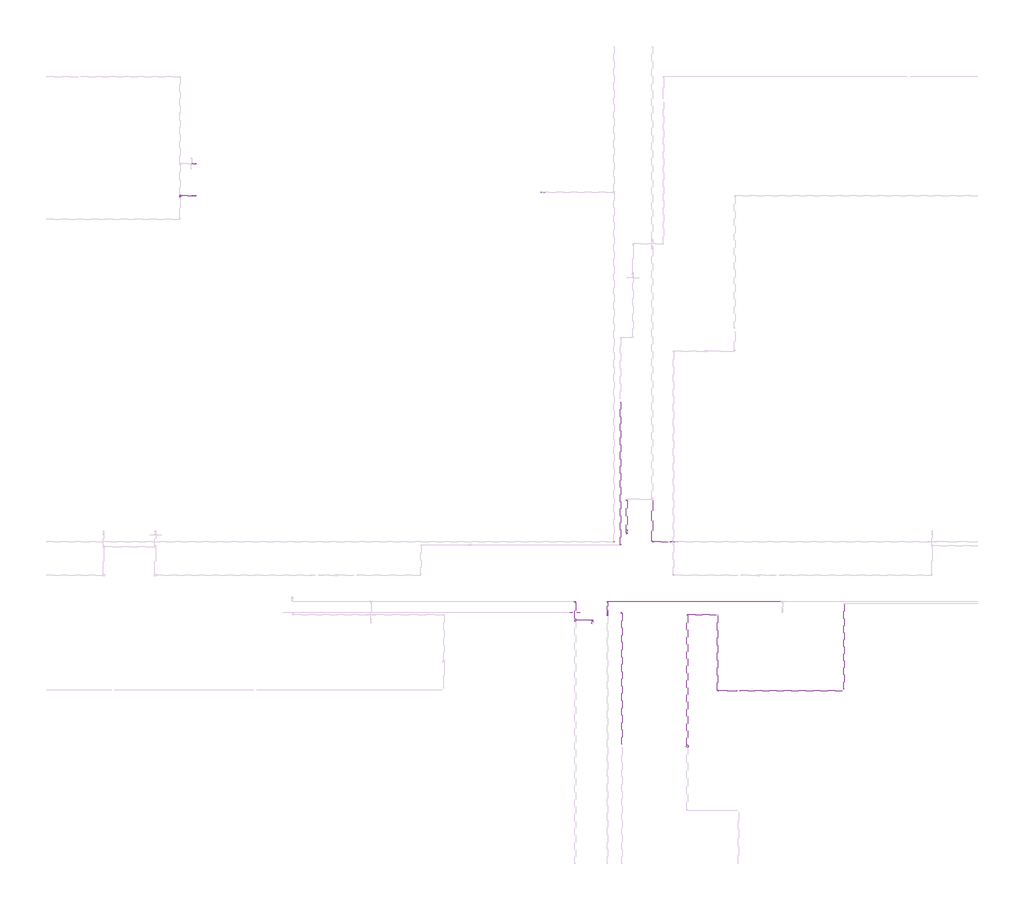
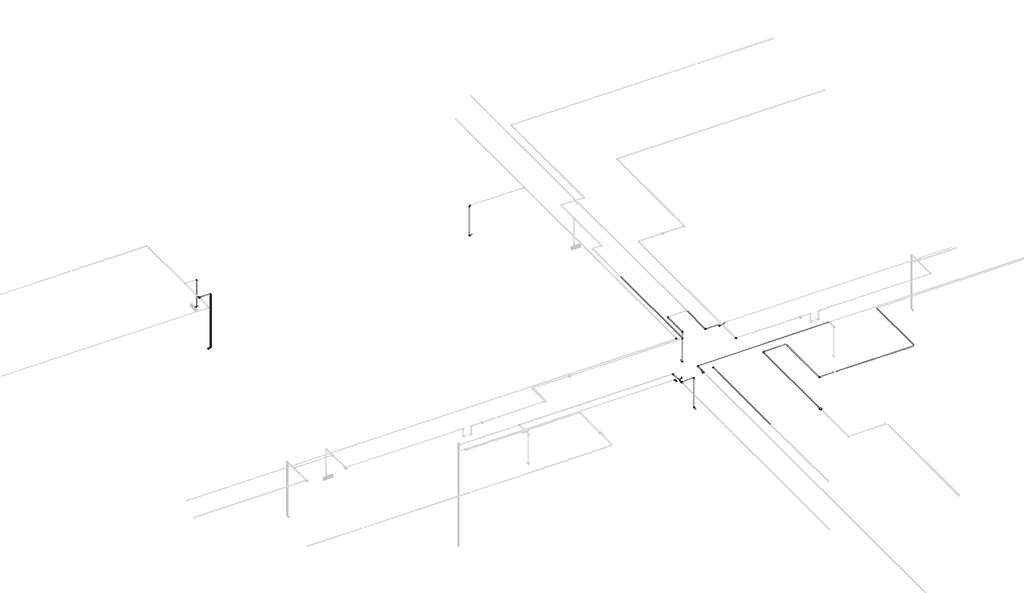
# One storey, part 7 of 13: 34 cable carrier segments, 31 cable carrier fittings, 1 alarm.
"""IFC4 building model written with IfcOpenShell, lengths in millimetres."""

from ifc_helpers import new_model, si_unit, point, frame, frame_2d, origin, place, context, project, spatial, circle_curve, trimmed, segment, composite_curve, outline, extrude, transform, mapped, element, save
from components import alarm_a2247946, cable_carrier_fitting_69f1a801, cable_carrier_fitting_8122f9af, cable_carrier_fitting_8fd13dfc, cable_carrier_fitting_878e7cbb, cable_carrier_fitting_4b72e086, cable_carrier_fitting_73a83bcc, cable_carrier_fitting_5f05cd2f

model = new_model("IFC4")

# Units and contexts
model_context = context("Model", 3, world=origin())
ifc_project = project(units=[si_unit("LENGTHUNIT", "METRE", prefix="MILLI")], contexts=[model_context])

# Site, building, storey
site = spatial("IfcSite", under=ifc_project)
building = spatial("IfcBuilding", under=site)
storey = spatial("IfcBuildingStorey", under=building, Name="2 этаж", Elevation=3500.0)

# Alarm
placement = place(None, origin())
alarm_shape = alarm_a2247946(model_context)
element("IfcAlarm", 1, ObjectType="RBZ_ИзоляторШлейфа_Рубеж_ИЗ-1_прот.R3(плоскость) : ИЗ-1 прот.R3", at=placement, inside=storey, context=model_context, shape_type="MappedRepresentation", body=[
    mapped(alarm_shape, transform((-12472.3240021, 699.6370105, 6997.7), x_axis=(1.0, 0.0, 0.0), y_axis=(0.0, 1.0, 0.0), z_axis=(0.0, 0.0, 1.0))),
])

# Cable carrier fittings
cable_carrier_fitting_shape = cable_carrier_fitting_69f1a801(model_context)
element("IfcCableCarrierFitting", 2, ObjectType="ADSK_Поворот_Минимальный размер : Неспецифицируемый", at=placement, inside=storey, context=model_context, shape_type="MappedRepresentation", body=[
    mapped(cable_carrier_fitting_shape, transform((-11678.8240021, 2144.6370105, 6986.95), x_axis=(0.0, -1.0, 0.0), y_axis=(1.0, 0.0, 0.0), z_axis=(0.0, 0.0, 1.0))),
])
element("IfcCableCarrierFitting", 3, ObjectType="ADSK_Поворот_Минимальный размер : Неспецифицируемый", at=placement, inside=storey, context=model_context, shape_type="MappedRepresentation", body=[
    mapped(cable_carrier_fitting_shape, transform((-12472.3240021, 4135.4271104, 6986.95), x_axis=(-1.0, 0.0, 0.0), y_axis=(0.0, -1.0, 0.0), z_axis=(0.0, 0.0, 1.0))),
])
element("IfcCableCarrierFitting", 4, ObjectType="ADSK_Поворот_Минимальный размер : Неспецифицируемый", at=placement, inside=storey, context=model_context, shape_type="MappedRepresentation", body=[
    mapped(cable_carrier_fitting_shape, transform((-14212.3240021, 5957.1532203, 6984.65), x_axis=(1.0, 0.0, 0.0), y_axis=(0.0, 1.0, 0.0), z_axis=(0.0, 0.0, 1.0))),
])
element("IfcCableCarrierFitting", 5, ObjectType="ADSK_Поворот_Минимальный размер : Неспецифицируемый", at=placement, inside=storey, context=model_context, shape_type="MappedRepresentation", body=[
    mapped(cable_carrier_fitting_shape, transform((-12827.3240021, 5164.6370105, 6986.95), x_axis=(0.0, -1.0, 0.0), y_axis=(1.0, 0.0, 0.0), z_axis=(0.0, 0.0, 1.0))),
])
element("IfcCableCarrierFitting", 6, ObjectType="ADSK_Поворот_Минимальный размер : Неспецифицируемый", at=placement, inside=storey, context=model_context, shape_type="MappedRepresentation", body=[
    mapped(cable_carrier_fitting_shape, transform((-14382.3240021, 6037.6221207, 6990.0), x_axis=(1.0, 0.0, 0.0), y_axis=(0.0, 1.0, 0.0), z_axis=(0.0, 0.0, 1.0))),
])
element("IfcCableCarrierFitting", 7, ObjectType="ADSK_Поворот_Минимальный размер : Неспецифицируемый", at=placement, inside=storey, context=model_context, shape_type="MappedRepresentation", body=[
    mapped(cable_carrier_fitting_shape, transform((-16289.5238077, 15172.1370105, 5897.4861504), x_axis=(-1.0, 0.0, 0.0), y_axis=(0.0, 0.0, 1.0), z_axis=(0.0, 1.0, 0.0))),
])
element("IfcCableCarrierFitting", 8, ObjectType="ADSK_Поворот_Минимальный размер : Неспецифицируемый", at=placement, inside=storey, context=model_context, shape_type="MappedRepresentation", body=[
    mapped(cable_carrier_fitting_shape, transform((-16289.5238077, 15172.1370105, 6990.0), x_axis=(0.0, 0.0, 1.0), y_axis=(1.0, 0.0, 0.0), z_axis=(0.0, 1.0, 0.0))),
])
element("IfcCableCarrierFitting", 9, ObjectType="ADSK_Поворот_Минимальный размер : Неспецифицируемый", at=placement, inside=storey, context=model_context, shape_type="MappedRepresentation", body=[
    mapped(cable_carrier_fitting_shape, transform((-14052.3240021, 6252.4372049, 5897.4861504), x_axis=(0.0, -1.0, 0.0), y_axis=(0.0, 0.0, 1.0), z_axis=(-1.0, 0.0, 0.0))),
])
element("IfcCableCarrierFitting", 10, ObjectType="ADSK_Поворот_Минимальный размер : Неспецифицируемый", at=placement, inside=storey, context=model_context, shape_type="MappedRepresentation", body=[
    mapped(cable_carrier_fitting_shape, transform((-14052.3240021, 6252.4372049, 6990.0), x_axis=(0.0, 0.0, 1.0), y_axis=(0.0, 1.0, 0.0), z_axis=(-1.0, 0.0, 0.0))),
])
element("IfcCableCarrierFitting", 11, ObjectType="ADSK_Поворот_Минимальный размер : Неспецифицируемый", at=placement, inside=storey, context=model_context, shape_type="MappedRepresentation", body=[
    mapped(cable_carrier_fitting_shape, transform((-14052.3240021, 7149.6370105, 6990.0), x_axis=(-1.0, 0.0, 0.0), y_axis=(0.0, -1.0, 0.0), z_axis=(0.0, 0.0, 1.0))),
])
element("IfcCableCarrierFitting", 12, ObjectType="ADSK_Поворот_Минимальный размер : Неспецифицируемый", at=placement, inside=storey, context=model_context, shape_type="MappedRepresentation", body=[
    mapped(cable_carrier_fitting_shape, transform((-14952.3240021, 3996.8368161, 5897.4861504), x_axis=(0.0, 1.0, 0.0), y_axis=(0.0, 0.0, 1.0), z_axis=(1.0, 0.0, 0.0))),
])
element("IfcCableCarrierFitting", 13, ObjectType="ADSK_Поворот_Минимальный размер : Неспецифицируемый", at=placement, inside=storey, context=model_context, shape_type="MappedRepresentation", body=[
    mapped(cable_carrier_fitting_shape, transform((-25315.1241965, 15917.1370105, 6000.0), x_axis=(1.0, 0.0, 0.0), y_axis=(0.0, 0.0, 1.0), z_axis=(0.0, -1.0, 0.0))),
])
element("IfcCableCarrierFitting", 14, ObjectType="ADSK_Поворот_Минимальный размер : Неспецифицируемый", at=placement, inside=storey, context=model_context, shape_type="MappedRepresentation", body=[
    mapped(cable_carrier_fitting_shape, transform((-25315.1241965, 15917.1370105, 6986.95), x_axis=(0.0, 0.0, 1.0), y_axis=(-1.0, 0.0, 0.0), z_axis=(0.0, -1.0, 0.0))),
])
element("IfcCableCarrierFitting", 15, ObjectType="ADSK_Поворот_Минимальный размер : Неспецифицируемый", at=placement, inside=storey, context=model_context, shape_type="MappedRepresentation", body=[
    mapped(cable_carrier_fitting_shape, transform((-25315.1241965, 15077.1370105, 5000.0), x_axis=(1.0, 0.0, 0.0), y_axis=(0.0, 0.0, 1.0), z_axis=(0.0, -1.0, 0.0))),
])
element("IfcCableCarrierFitting", 16, ObjectType="ADSK_Поворот_Минимальный размер : Неспецифицируемый", at=placement, inside=storey, context=model_context, shape_type="MappedRepresentation", body=[
    mapped(cable_carrier_fitting_shape, transform((-25315.1241965, 15077.1370105, 6986.95), x_axis=(0.0, 0.0, 1.0), y_axis=(-1.0, 0.0, 0.0), z_axis=(0.0, -1.0, 0.0))),
])
element("IfcCableCarrierFitting", 17, ObjectType="ADSK_Поворот_Минимальный размер : Неспецифицируемый", at=placement, inside=storey, context=model_context, shape_type="MappedRepresentation", body=[
    mapped(cable_carrier_fitting_shape, transform((-14174.8240021, 4191.0020778, 6986.95), x_axis=(0.0, 1.0, 0.0), y_axis=(-0.999999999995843, 0.0, 2.883415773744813e-06), z_axis=(2.883415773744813e-06, 0.0, 0.999999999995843))),
])
element("IfcCableCarrierFitting", 18, ObjectType="ADSK_Поворот_Минимальный размер : Неспецифицируемый", at=placement, inside=storey, context=model_context, shape_type="MappedRepresentation", body=[
    mapped(cable_carrier_fitting_shape, transform((-15397.3240021, 4481.6519004, 6990.0), x_axis=(0.0, 1.0, 0.0), y_axis=(-1.0, 0.0, 0.0), z_axis=(0.0, 0.0, 1.0))),
])
element("IfcCableCarrierFitting", 19, ObjectType="ADSK_Поворот_Минимальный размер : Неспецифицируемый", at=placement, inside=storey, context=model_context, shape_type="MappedRepresentation", body=[
    mapped(cable_carrier_fitting_shape, transform((-14952.3240021, 3996.8368161, 6990.0), x_axis=(0.0, 0.0, 1.0), y_axis=(-1.0, 0.0, 0.0), z_axis=(0.0, -1.0, 0.0))),
])
element("IfcCableCarrierFitting", 20, ObjectType="ADSK_Поворот_Минимальный размер : Неспецифицируемый", at=placement, inside=storey, context=model_context, shape_type="MappedRepresentation", body=[
    mapped(cable_carrier_fitting_shape, transform((-14554.8240021, 4481.6519004, 6990.0), x_axis=(-1.0, 0.0, 0.0), y_axis=(0.0, -1.0, 0.0), z_axis=(0.0, 0.0, 1.0))),
])
element("IfcCableCarrierFitting", 21, ObjectType="ADSK_Поворот_Минимальный размер : Неспецифицируемый", at=placement, inside=storey, context=model_context, shape_type="MappedRepresentation", body=[
    mapped(cable_carrier_fitting_shape, transform((-13382.3240021, 6037.6221207, 6990.0), x_axis=(0.0, -1.0, 0.0), y_axis=(1.0, 0.0, 0.0), z_axis=(0.0, 0.0, 1.0))),
])
cable_carrier_fitting_2_shape = cable_carrier_fitting_8122f9af(model_context)
element("IfcCableCarrierFitting", 22, ObjectType="ADSK_Поворот_Минимальный размер : Неспецифицируемый", at=placement, inside=storey, context=model_context, shape_type="MappedRepresentation", body=[
    mapped(cable_carrier_fitting_2_shape, transform((-14554.8240021, 4189.0390059, 6940.0), x_axis=(0.0, -0.7071067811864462, -0.7071067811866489), y_axis=(0.0, -0.7071067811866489, 0.7071067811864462), z_axis=(-1.0, 0.0, 0.0))),
])
element("IfcCableCarrierFitting", 23, ObjectType="ADSK_Поворот_Минимальный размер : Неспецифицируемый", at=placement, inside=storey, context=model_context, shape_type="MappedRepresentation", body=[
    mapped(cable_carrier_fitting_2_shape, transform((-14554.8240021, 4162.2318705, 6940.0), x_axis=(0.0, -1.0, 0.0), y_axis=(0.0, 0.0, 1.0), z_axis=(-1.0, 0.0, 0.0))),
])
element("IfcCableCarrierFitting", 24, ObjectType="ADSK_Поворот_Минимальный размер : Неспецифицируемый", at=placement, inside=storey, context=model_context, shape_type="MappedRepresentation", body=[
    mapped(cable_carrier_fitting_2_shape, transform((-14554.8240021, 4112.2318705, 6990.0), x_axis=(0.0, -0.7071067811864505, 0.7071067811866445), y_axis=(0.0, -0.7071067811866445, -0.7071067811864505), z_axis=(1.0, 0.0, 0.0))),
])
element("IfcCableCarrierFitting", 25, ObjectType="ADSK_Поворот_Минимальный размер : Неспецифицируемый", at=placement, inside=storey, context=model_context, shape_type="MappedRepresentation", body=[
    mapped(cable_carrier_fitting_2_shape, transform((-12893.8962734, 6037.6221207, 6940.0), x_axis=(0.7071067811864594, 0.0, -0.7071067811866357), y_axis=(0.7071067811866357, 0.0, 0.7071067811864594), z_axis=(0.0, -1.0, 0.0))),
])
element("IfcCableCarrierFitting", 26, ObjectType="ADSK_Поворот_Минимальный размер : Неспецифицируемый", at=placement, inside=storey, context=model_context, shape_type="MappedRepresentation", body=[
    mapped(cable_carrier_fitting_2_shape, transform((-14554.8240021, 4239.0390059, 6990.0), x_axis=(0.0, 0.707106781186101, 0.707106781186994), y_axis=(0.0, 0.707106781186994, -0.707106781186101), z_axis=(-1.0, 0.0, 0.0))),
])
cable_carrier_fitting_3_shape = cable_carrier_fitting_8fd13dfc(model_context)
element("IfcCableCarrierFitting", 27, ObjectType="ADSK_Тройник : ПВХ", at=placement, inside=storey, context=model_context, shape_type="MappedRepresentation", body=[
    mapped(cable_carrier_fitting_3_shape, transform((-25722.3240021, 15077.1370105, 6986.95), x_axis=(0.0, 1.0, 0.0), y_axis=(-1.0, 0.0, 0.0), z_axis=(0.0, 0.0, 1.0))),
])
element("IfcCableCarrierFitting", 28, ObjectType="ADSK_Тройник : ПВХ", at=placement, inside=storey, context=model_context, shape_type="MappedRepresentation", body=[
    mapped(cable_carrier_fitting_3_shape, transform((-15397.3240021, 3996.8368161, 6990.0), x_axis=(0.0, 1.0, 0.0), y_axis=(-1.0, 0.0, 0.0), z_axis=(0.0, 0.0, 1.0))),
])
cable_carrier_fitting_4_shape = cable_carrier_fitting_878e7cbb(model_context)
element("IfcCableCarrierFitting", 29, ObjectType="ADSK_Поворот_Минимальный размер : Неспецифицируемый", at=placement, inside=storey, context=model_context, shape_type="MappedRepresentation", body=[
    mapped(cable_carrier_fitting_4_shape, transform((-15280.7517309, 4191.0020779, 6990.0001713), x_axis=(-0.9999999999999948, 0.0, 1.0205814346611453e-07), y_axis=(-1.0205814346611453e-07, 0.0, -0.9999999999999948), z_axis=(0.0, -1.0, 0.0))),
])
cable_carrier_fitting_5_shape = cable_carrier_fitting_4b72e086(model_context)
element("IfcCableCarrierFitting", 30, ObjectType="ADSK_Поворот_Минимальный размер : Неспецифицируемый", at=placement, inside=storey, context=model_context, shape_type="MappedRepresentation", body=[
    mapped(cable_carrier_fitting_5_shape, transform((-15330.7516703, 4191.0020779, 6940.0002318), x_axis=(-0.707106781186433, 0.0, -0.7071067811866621), y_axis=(-0.7071067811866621, 0.0, 0.707106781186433), z_axis=(0.0, 1.0, 0.0))),
])
cable_carrier_fitting_6_shape = cable_carrier_fitting_73a83bcc(model_context)
element("IfcCableCarrierFitting", 31, ObjectType="ADSK_Поворот_Минимальный размер : Неспецифицируемый", at=placement, inside=storey, context=model_context, shape_type="MappedRepresentation", body=[
    mapped(cable_carrier_fitting_6_shape, transform((-15463.8962734, 4191.0020779, 6939.9998287), x_axis=(-0.9999999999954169, 0.0, -3.0275862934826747e-06), y_axis=(-3.0275862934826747e-06, 0.0, 0.9999999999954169), z_axis=(0.0, 1.0, 0.0))),
])
cable_carrier_fitting_7_shape = cable_carrier_fitting_5f05cd2f(model_context)
element("IfcCableCarrierFitting", 32, ObjectType="ADSK_Поворот_Минимальный размер : Неспецифицируемый", at=placement, inside=storey, context=model_context, shape_type="MappedRepresentation", body=[
    mapped(cable_carrier_fitting_7_shape, transform((-15513.8962734, 4191.0020779, 6989.9998889), x_axis=(-0.7071063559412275, 0.0, 0.7071072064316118), y_axis=(-0.7071072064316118, 0.0, -0.7071063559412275), z_axis=(0.0, -1.0, 0.0))),
])

# Cable carrier segments
element("IfcCableCarrierSegment", 33, ObjectType="Гофрированная труба", at=placement, inside=storey, context=model_context, shape_type="SweptSolid", body=[
    extrude(outline(composite_curve([segment(trimmed(circle_curve(frame_2d((6986.95, -14174.8240021)), 10.0), [point((6986.95, -14164.8240021))], [point((6996.95, -14174.8240021))], False, "CARTESIAN"), True, "CONTINUOUS"), segment(trimmed(circle_curve(frame_2d((6986.95, -14174.8240021)), 10.0), [point((6996.95, -14174.8240021))], [point((6986.95, -14184.8240021))], False, "CARTESIAN"), True, "CONTINUOUS"), segment(trimmed(circle_curve(frame_2d((6986.95, -14174.8240021)), 10.0), [point((6986.95, -14184.8240021))], [point((6976.95, -14174.8240021))], False, "CARTESIAN"), True, "CONTINUOUS"), segment(trimmed(circle_curve(frame_2d((6986.95, -14174.8240021)), 10.0), [point((6976.95, -14174.8240021))], [point((6986.95, -14164.8240021))], False, "CARTESIAN"), True, "CONTINUOUS")], self_intersect=False)), frame((0.0, 746.1370105, 0.0), z_axis=(0.0, 1.0, 0.0), x_axis=(0.0, 0.0, 1.0)), (0.0, 0.0, 1.0), 3423.8650673),
])
element("IfcCableCarrierSegment", 34, ObjectType="Гофрированная труба", at=placement, inside=storey, context=model_context, shape_type="SweptSolid", body=[
    extrude(outline(composite_curve([segment(trimmed(circle_curve(frame_2d((6986.95, -12472.3240021)), 10.0), [point((6986.95, -12482.3240021))], [point((6976.95, -12472.3240021))], False, "CARTESIAN"), True, "CONTINUOUS"), segment(trimmed(circle_curve(frame_2d((6986.95, -12472.3240021)), 10.0), [point((6976.95, -12472.3240021))], [point((6986.95, -12462.3240021))], False, "CARTESIAN"), True, "CONTINUOUS"), segment(trimmed(circle_curve(frame_2d((6986.95, -12472.3240021)), 10.0), [point((6986.95, -12462.3240021))], [point((6996.95, -12472.3240021))], False, "CARTESIAN"), True, "CONTINUOUS"), segment(trimmed(circle_curve(frame_2d((6986.95, -12472.3240021)), 10.0), [point((6996.95, -12472.3240021))], [point((6986.95, -12482.3240021))], False, "CARTESIAN"), True, "CONTINUOUS")], self_intersect=False)), frame((0.0, 725.6370105, 0.0), z_axis=(0.0, 1.0, 0.0), x_axis=(0.0, 0.0, 1.0)), (0.0, 0.0, 1.0), 3388.7900999),
])
element("IfcCableCarrierSegment", 35, ObjectType="Гофрированная труба", at=placement, inside=storey, context=model_context, shape_type="SweptSolid", body=[
    extrude(outline(composite_curve([segment(trimmed(circle_curve(frame_2d((2144.6370105, 6986.95)), 10.0), [point((2154.6370105, 6986.95))], [point((2144.6370105, 6976.95))], False, "CARTESIAN"), True, "CONTINUOUS"), segment(trimmed(circle_curve(frame_2d((2144.6370105, 6986.95)), 10.0), [point((2144.6370105, 6976.95))], [point((2134.6370105, 6986.95))], False, "CARTESIAN"), True, "CONTINUOUS"), segment(trimmed(circle_curve(frame_2d((2144.6370105, 6986.95)), 10.0), [point((2134.6370105, 6986.95))], [point((2144.6370105, 6996.95))], False, "CARTESIAN"), True, "CONTINUOUS"), segment(trimmed(circle_curve(frame_2d((2144.6370105, 6986.95)), 10.0), [point((2144.6370105, 6996.95))], [point((2154.6370105, 6986.95))], False, "CARTESIAN"), True, "CONTINUOUS")], self_intersect=False)), frame((-11657.8240021, 0.0, 0.0), z_axis=(1.0, 0.0, 0.0), x_axis=(0.0, 1.0, 0.0)), (0.0, 0.0, 1.0), 479.0),
])
element("IfcCableCarrierSegment", 36, ObjectType="Гофрированная труба", at=placement, inside=storey, context=model_context, shape_type="SweptSolid", body=[
    extrude(outline(composite_curve([segment(trimmed(circle_curve(frame_2d((6986.95, -11678.8240021)), 10.0), [point((6986.95, -11668.8240021))], [point((6996.95, -11678.8240021))], False, "CARTESIAN"), True, "CONTINUOUS"), segment(trimmed(circle_curve(frame_2d((6986.95, -11678.8240021)), 10.0), [point((6996.95, -11678.8240021))], [point((6986.95, -11688.8240021))], False, "CARTESIAN"), True, "CONTINUOUS"), segment(trimmed(circle_curve(frame_2d((6986.95, -11678.8240021)), 10.0), [point((6986.95, -11688.8240021))], [point((6976.95, -11678.8240021))], False, "CARTESIAN"), True, "CONTINUOUS"), segment(trimmed(circle_curve(frame_2d((6986.95, -11678.8240021)), 10.0), [point((6976.95, -11678.8240021))], [point((6986.95, -11668.8240021))], False, "CARTESIAN"), True, "CONTINUOUS")], self_intersect=False)), frame((0.0, 2165.6370105, 0.0), z_axis=(0.0, 1.0, 0.0), x_axis=(0.0, 0.0, 1.0)), (0.0, 0.0, 1.0), 1948.7900999),
])
element("IfcCableCarrierSegment", 37, ObjectType="Гофрированная труба", at=placement, inside=storey, context=model_context, shape_type="SweptSolid", body=[
    extrude(outline(composite_curve([segment(trimmed(circle_curve(frame_2d((4135.4271104, 6986.95)), 10.0), [point((4125.4271104, 6986.95))], [point((4135.4271104, 6996.95))], False, "CARTESIAN"), True, "CONTINUOUS"), segment(trimmed(circle_curve(frame_2d((4135.4271104, 6986.95)), 10.0), [point((4135.4271104, 6996.95))], [point((4145.4271104, 6986.95))], False, "CARTESIAN"), True, "CONTINUOUS"), segment(trimmed(circle_curve(frame_2d((4135.4271104, 6986.95)), 10.0), [point((4145.4271104, 6986.95))], [point((4135.4271104, 6976.95))], False, "CARTESIAN"), True, "CONTINUOUS"), segment(trimmed(circle_curve(frame_2d((4135.4271104, 6986.95)), 10.0), [point((4135.4271104, 6976.95))], [point((4125.4271104, 6986.95))], False, "CARTESIAN"), True, "CONTINUOUS")], self_intersect=False)), frame((-12451.3240021, 0.0, 0.0), z_axis=(1.0, 0.0, 0.0), x_axis=(0.0, 1.0, 0.0)), (0.0, 0.0, 1.0), 751.5),
])
element("IfcCableCarrierSegment", 38, ObjectType="Гофрированная труба", at=placement, inside=storey, context=model_context, shape_type="SweptSolid", body=[
    extrude(outline(composite_curve([segment(trimmed(circle_curve(frame_2d((6984.65, -14212.3240021)), 10.0), [point((6984.65, -14202.3240021))], [point((6994.65, -14212.3240021))], False, "CARTESIAN"), True, "CONTINUOUS"), segment(trimmed(circle_curve(frame_2d((6984.65, -14212.3240021)), 10.0), [point((6994.65, -14212.3240021))], [point((6984.65, -14222.3240021))], False, "CARTESIAN"), True, "CONTINUOUS"), segment(trimmed(circle_curve(frame_2d((6984.65, -14212.3240021)), 10.0), [point((6984.65, -14222.3240021))], [point((6974.65, -14212.3240021))], False, "CARTESIAN"), True, "CONTINUOUS"), segment(trimmed(circle_curve(frame_2d((6984.65, -14212.3240021)), 10.0), [point((6974.65, -14212.3240021))], [point((6984.65, -14202.3240021))], False, "CARTESIAN"), True, "CONTINUOUS")], self_intersect=False)), frame((0.0, 5978.1532203, 0.0), z_axis=(0.0, 1.0, 0.0), x_axis=(0.0, 0.0, 1.0)), (0.0, 0.0, 1.0), 3704.9837902),
])
element("IfcCableCarrierSegment", 39, ObjectType="Гофрированная труба", at=placement, inside=storey, context=model_context, shape_type="SweptSolid", body=[
    extrude(outline(composite_curve([segment(trimmed(circle_curve(frame_2d((2144.6370105, 6986.95)), 10.0), [point((2134.6370105, 6986.95))], [point((2144.6370105, 6996.95))], False, "CARTESIAN"), True, "CONTINUOUS"), segment(trimmed(circle_curve(frame_2d((2144.6370105, 6986.95)), 10.0), [point((2144.6370105, 6996.95))], [point((2154.6370105, 6986.95))], False, "CARTESIAN"), True, "CONTINUOUS"), segment(trimmed(circle_curve(frame_2d((2144.6370105, 6986.95)), 10.0), [point((2154.6370105, 6986.95))], [point((2144.6370105, 6976.95))], False, "CARTESIAN"), True, "CONTINUOUS"), segment(trimmed(circle_curve(frame_2d((2144.6370105, 6986.95)), 10.0), [point((2144.6370105, 6976.95))], [point((2134.6370105, 6986.95))], False, "CARTESIAN"), True, "CONTINUOUS")], self_intersect=False)), frame((-11085.8240021, 0.0, 0.0), z_axis=(1.0, 0.0, 0.0), x_axis=(0.0, 1.0, 0.0)), (0.0, 0.0, 1.0), 2667.0),
])
element("IfcCableCarrierSegment", 40, ObjectType="Гофрированная труба", at=placement, inside=storey, context=model_context, shape_type="SweptSolid", body=[
    extrude(outline(composite_curve([segment(trimmed(circle_curve(frame_2d((6986.95, -8372.3240021)), 10.0), [point((6986.95, -8362.3240021))], [point((6996.95, -8372.3240021))], False, "CARTESIAN"), True, "CONTINUOUS"), segment(trimmed(circle_curve(frame_2d((6986.95, -8372.3240021)), 10.0), [point((6996.95, -8372.3240021))], [point((6986.95, -8382.3240021))], False, "CARTESIAN"), True, "CONTINUOUS"), segment(trimmed(circle_curve(frame_2d((6986.95, -8372.3240021)), 10.0), [point((6986.95, -8382.3240021))], [point((6976.95, -8372.3240021))], False, "CARTESIAN"), True, "CONTINUOUS"), segment(trimmed(circle_curve(frame_2d((6986.95, -8372.3240021)), 10.0), [point((6976.95, -8372.3240021))], [point((6986.95, -8362.3240021))], False, "CARTESIAN"), True, "CONTINUOUS")], self_intersect=False)), frame((0.0, 2191.1370105, 0.0), z_axis=(0.0, 1.0, 0.0), x_axis=(0.0, 0.0, 1.0)), (0.0, 0.0, 1.0), 2212.5),
])
element("IfcCableCarrierSegment", 41, ObjectType="Гофрированная труба", at=placement, inside=storey, context=model_context, shape_type="SweptSolid", body=[
    extrude(outline(composite_curve([segment(trimmed(circle_curve(frame_2d((6990.0, -13382.3240021)), 10.0), [point((6990.0, -13392.3240021))], [point((6980.0, -13382.3240021))], False, "CARTESIAN"), True, "CONTINUOUS"), segment(trimmed(circle_curve(frame_2d((6990.0, -13382.3240021)), 10.0), [point((6980.0, -13382.3240021))], [point((6990.0, -13372.3240021))], False, "CARTESIAN"), True, "CONTINUOUS"), segment(trimmed(circle_curve(frame_2d((6990.0, -13382.3240021)), 10.0), [point((6990.0, -13372.3240021))], [point((7000.0, -13382.3240021))], False, "CARTESIAN"), True, "CONTINUOUS"), segment(trimmed(circle_curve(frame_2d((6990.0, -13382.3240021)), 10.0), [point((7000.0, -13382.3240021))], [point((6990.0, -13392.3240021))], False, "CARTESIAN"), True, "CONTINUOUS")], self_intersect=False)), frame((0.0, 6058.6221207, 0.0), z_axis=(0.0, 1.0, 0.0), x_axis=(0.0, 0.0, 1.0)), (0.0, 0.0, 1.0), 1061.0148898),
])
element("IfcCableCarrierSegment", 42, ObjectType="Гофрированная труба", at=placement, inside=storey, context=model_context, shape_type="SweptSolid", body=[
    extrude(outline(composite_curve([segment(trimmed(circle_curve(frame_2d((4481.6519004, 6990.0)), 10.0), [point((4491.6519004, 6990.0))], [point((4481.6519004, 6980.0))], False, "CARTESIAN"), True, "CONTINUOUS"), segment(trimmed(circle_curve(frame_2d((4481.6519004, 6990.0)), 10.0), [point((4481.6519004, 6980.0))], [point((4471.6519004, 6990.0))], False, "CARTESIAN"), True, "CONTINUOUS"), segment(trimmed(circle_curve(frame_2d((4481.6519004, 6990.0)), 10.0), [point((4471.6519004, 6990.0))], [point((4481.6519004, 7000.0))], False, "CARTESIAN"), True, "CONTINUOUS"), segment(trimmed(circle_curve(frame_2d((4481.6519004, 6990.0)), 10.0), [point((4481.6519004, 7000.0))], [point((4491.6519004, 6990.0))], False, "CARTESIAN"), True, "CONTINUOUS")], self_intersect=False)), frame((-14533.8240021, 0.0, 0.0), z_axis=(1.0, 0.0, 0.0), x_axis=(0.0, 1.0, 0.0)), (0.0, 0.0, 1.0), 4521.5),
])
element("IfcCableCarrierSegment", 43, ObjectType="Гофрированная труба", at=placement, inside=storey, context=model_context, shape_type="SweptSolid", body=[
    extrude(outline(composite_curve([segment(trimmed(circle_curve(frame_2d((6940.0, -14554.8240021)), 10.0), [point((6940.0, -14564.8240021))], [point((6930.0, -14554.8240021))], False, "CARTESIAN"), True, "CONTINUOUS"), segment(trimmed(circle_curve(frame_2d((6940.0, -14554.8240021)), 10.0), [point((6930.0, -14554.8240021))], [point((6940.0, -14544.8240021))], False, "CARTESIAN"), True, "CONTINUOUS"), segment(trimmed(circle_curve(frame_2d((6940.0, -14554.8240021)), 10.0), [point((6940.0, -14544.8240021))], [point((6950.0, -14554.8240021))], False, "CARTESIAN"), True, "CONTINUOUS"), segment(trimmed(circle_curve(frame_2d((6940.0, -14554.8240021)), 10.0), [point((6950.0, -14554.8240021))], [point((6940.0, -14564.8240021))], False, "CARTESIAN"), True, "CONTINUOUS")], self_intersect=False)), frame((0.0, 4171.5161417, 0.0), z_axis=(0.0, 1.0, 0.0), x_axis=(0.0, 0.0, 1.0)), (0.0, 0.0, 1.0), 8.2385929),
])
element("IfcCableCarrierSegment", 44, ObjectType="Гофрированная труба", at=placement, inside=storey, context=model_context, shape_type="SweptSolid", body=[
    extrude(outline(composite_curve([segment(trimmed(circle_curve(frame_2d((15172.1370105, 5897.4861504)), 10.0), [point((15182.1370105, 5897.4861504))], [point((15172.1370105, 5887.4861504))], False, "CARTESIAN"), True, "CONTINUOUS"), segment(trimmed(circle_curve(frame_2d((15172.1370105, 5897.4861504)), 10.0), [point((15172.1370105, 5887.4861504))], [point((15162.1370105, 5897.4861504))], False, "CARTESIAN"), True, "CONTINUOUS"), segment(trimmed(circle_curve(frame_2d((15172.1370105, 5897.4861504)), 10.0), [point((15162.1370105, 5897.4861504))], [point((15172.1370105, 5907.4861504))], False, "CARTESIAN"), True, "CONTINUOUS"), segment(trimmed(circle_curve(frame_2d((15172.1370105, 5897.4861504)), 10.0), [point((15172.1370105, 5907.4861504))], [point((15182.1370105, 5897.4861504))], False, "CARTESIAN"), True, "CONTINUOUS")], self_intersect=False)), frame((-16268.5238077, 0.0, 0.0), z_axis=(1.0, 0.0, 0.0), x_axis=(0.0, 1.0, 0.0)), (0.0, 0.0, 1.0), 76.1998056),
])
element("IfcCableCarrierSegment", 45, ObjectType="Гофрированная труба", at=placement, inside=storey, context=model_context, shape_type="SweptSolid", body=[
    extrude(outline(composite_curve([segment(trimmed(circle_curve(frame_2d((-16289.5238077, 15172.1370105)), 10.0), [point((-16299.5238077, 15172.1370105))], [point((-16289.5238077, 15182.1370105))], False, "CARTESIAN"), True, "CONTINUOUS"), segment(trimmed(circle_curve(frame_2d((-16289.5238077, 15172.1370105)), 10.0), [point((-16289.5238077, 15182.1370105))], [point((-16279.5238077, 15172.1370105))], False, "CARTESIAN"), True, "CONTINUOUS"), segment(trimmed(circle_curve(frame_2d((-16289.5238077, 15172.1370105)), 10.0), [point((-16279.5238077, 15172.1370105))], [point((-16289.5238077, 15162.1370105))], False, "CARTESIAN"), True, "CONTINUOUS"), segment(trimmed(circle_curve(frame_2d((-16289.5238077, 15172.1370105)), 10.0), [point((-16289.5238077, 15162.1370105))], [point((-16299.5238077, 15172.1370105))], False, "CARTESIAN"), True, "CONTINUOUS")], self_intersect=False)), frame((0.0, 0.0, 5918.4861504), z_axis=(0.0, 0.0, 1.0), x_axis=(1.0, 0.0, 0.0)), (0.0, 0.0, 1.0), 1050.5138496),
])
element("IfcCableCarrierSegment", 46, ObjectType="Гофрированная труба", at=placement, inside=storey, context=model_context, shape_type="SweptSolid", body=[
    extrude(outline(composite_curve([segment(trimmed(circle_curve(frame_2d((6990.0, -14052.3240021)), 10.0), [point((6990.0, -14042.3240021))], [point((7000.0, -14052.3240021))], False, "CARTESIAN"), True, "CONTINUOUS"), segment(trimmed(circle_curve(frame_2d((6990.0, -14052.3240021)), 10.0), [point((7000.0, -14052.3240021))], [point((6990.0, -14062.3240021))], False, "CARTESIAN"), True, "CONTINUOUS"), segment(trimmed(circle_curve(frame_2d((6990.0, -14052.3240021)), 10.0), [point((6990.0, -14062.3240021))], [point((6980.0, -14052.3240021))], False, "CARTESIAN"), True, "CONTINUOUS"), segment(trimmed(circle_curve(frame_2d((6990.0, -14052.3240021)), 10.0), [point((6980.0, -14052.3240021))], [point((6990.0, -14042.3240021))], False, "CARTESIAN"), True, "CONTINUOUS")], self_intersect=False)), frame((0.0, 6273.4372049, 0.0), z_axis=(0.0, 1.0, 0.0), x_axis=(0.0, 0.0, 1.0)), (0.0, 0.0, 1.0), 855.1998056),
])
element("IfcCableCarrierSegment", 47, ObjectType="Гофрированная труба", at=placement, inside=storey, context=model_context, shape_type="SweptSolid", body=[
    extrude(outline(composite_curve([segment(trimmed(circle_curve(frame_2d((5897.4861504, -14052.3240021)), 10.0), [point((5897.4861504, -14062.3240021))], [point((5887.4861504, -14052.3240021))], False, "CARTESIAN"), True, "CONTINUOUS"), segment(trimmed(circle_curve(frame_2d((5897.4861504, -14052.3240021)), 10.0), [point((5887.4861504, -14052.3240021))], [point((5897.4861504, -14042.3240021))], False, "CARTESIAN"), True, "CONTINUOUS"), segment(trimmed(circle_curve(frame_2d((5897.4861504, -14052.3240021)), 10.0), [point((5897.4861504, -14042.3240021))], [point((5907.4861504, -14052.3240021))], False, "CARTESIAN"), True, "CONTINUOUS"), segment(trimmed(circle_curve(frame_2d((5897.4861504, -14052.3240021)), 10.0), [point((5907.4861504, -14052.3240021))], [point((5897.4861504, -14062.3240021))], False, "CARTESIAN"), True, "CONTINUOUS")], self_intersect=False)), frame((0.0, 6273.4372049, 0.0), z_axis=(0.0, 1.0, 0.0), x_axis=(0.0, 0.0, 1.0)), (0.0, 0.0, 1.0), 76.1998056),
])
element("IfcCableCarrierSegment", 48, ObjectType="Гофрированная труба", at=placement, inside=storey, context=model_context, shape_type="SweptSolid", body=[
    extrude(outline(composite_curve([segment(trimmed(circle_curve(frame_2d((-14052.3240021, 6252.4372049)), 10.0), [point((-14062.3240021, 6252.4372049))], [point((-14052.3240021, 6262.4372049))], False, "CARTESIAN"), True, "CONTINUOUS"), segment(trimmed(circle_curve(frame_2d((-14052.3240021, 6252.4372049)), 10.0), [point((-14052.3240021, 6262.4372049))], [point((-14042.3240021, 6252.4372049))], False, "CARTESIAN"), True, "CONTINUOUS"), segment(trimmed(circle_curve(frame_2d((-14052.3240021, 6252.4372049)), 10.0), [point((-14042.3240021, 6252.4372049))], [point((-14052.3240021, 6242.4372049))], False, "CARTESIAN"), True, "CONTINUOUS"), segment(trimmed(circle_curve(frame_2d((-14052.3240021, 6252.4372049)), 10.0), [point((-14052.3240021, 6242.4372049))], [point((-14062.3240021, 6252.4372049))], False, "CARTESIAN"), True, "CONTINUOUS")], self_intersect=False)), frame((0.0, 0.0, 5918.4861504), z_axis=(0.0, 0.0, 1.0), x_axis=(1.0, 0.0, 0.0)), (0.0, 0.0, 1.0), 1050.5138496),
])
element("IfcCableCarrierSegment", 49, ObjectType="Гофрированная труба", at=placement, inside=storey, context=model_context, shape_type="SweptSolid", body=[
    extrude(outline(composite_curve([segment(trimmed(circle_curve(frame_2d((5897.4861504, -14952.3240021)), 10.0), [point((5897.4861504, -14942.3240021))], [point((5907.4861504, -14952.3240021))], False, "CARTESIAN"), True, "CONTINUOUS"), segment(trimmed(circle_curve(frame_2d((5897.4861504, -14952.3240021)), 10.0), [point((5907.4861504, -14952.3240021))], [point((5897.4861504, -14962.3240021))], False, "CARTESIAN"), True, "CONTINUOUS"), segment(trimmed(circle_curve(frame_2d((5897.4861504, -14952.3240021)), 10.0), [point((5897.4861504, -14962.3240021))], [point((5887.4861504, -14952.3240021))], False, "CARTESIAN"), True, "CONTINUOUS"), segment(trimmed(circle_curve(frame_2d((5897.4861504, -14952.3240021)), 10.0), [point((5887.4861504, -14952.3240021))], [point((5897.4861504, -14942.3240021))], False, "CARTESIAN"), True, "CONTINUOUS")], self_intersect=False)), frame((0.0, 3899.6370105, 0.0), z_axis=(0.0, 1.0, 0.0), x_axis=(0.0, 0.0, 1.0)), (0.0, 0.0, 1.0), 76.1998056),
])
element("IfcCableCarrierSegment", 50, ObjectType="Гофрированная труба", at=placement, inside=storey, context=model_context, shape_type="SweptSolid", body=[
    extrude(outline(composite_curve([segment(trimmed(circle_curve(frame_2d((-14952.3240021, 3996.8368161)), 10.0), [point((-14962.3240021, 3996.8368161))], [point((-14952.3240021, 4006.8368161))], False, "CARTESIAN"), True, "CONTINUOUS"), segment(trimmed(circle_curve(frame_2d((-14952.3240021, 3996.8368161)), 10.0), [point((-14952.3240021, 4006.8368161))], [point((-14942.3240021, 3996.8368161))], False, "CARTESIAN"), True, "CONTINUOUS"), segment(trimmed(circle_curve(frame_2d((-14952.3240021, 3996.8368161)), 10.0), [point((-14942.3240021, 3996.8368161))], [point((-14952.3240021, 3986.8368161))], False, "CARTESIAN"), True, "CONTINUOUS"), segment(trimmed(circle_curve(frame_2d((-14952.3240021, 3996.8368161)), 10.0), [point((-14952.3240021, 3986.8368161))], [point((-14962.3240021, 3996.8368161))], False, "CARTESIAN"), True, "CONTINUOUS")], self_intersect=False)), frame((0.0, 0.0, 5918.4861504), z_axis=(0.0, 0.0, 1.0), x_axis=(1.0, 0.0, 0.0)), (0.0, 0.0, 1.0), 1050.5138496),
])
element("IfcCableCarrierSegment", 51, ObjectType="Гофрированная труба", at=placement, inside=storey, context=model_context, shape_type="SweptSolid", body=[
    extrude(outline(composite_curve([segment(trimmed(circle_curve(frame_2d((6990.0, -14554.8240021)), 10.0), [point((6990.0, -14564.8240021))], [point((6980.0, -14554.8240021))], False, "CARTESIAN"), True, "CONTINUOUS"), segment(trimmed(circle_curve(frame_2d((6990.0, -14554.8240021)), 10.0), [point((6980.0, -14554.8240021))], [point((6990.0, -14544.8240021))], False, "CARTESIAN"), True, "CONTINUOUS"), segment(trimmed(circle_curve(frame_2d((6990.0, -14554.8240021)), 10.0), [point((6990.0, -14544.8240021))], [point((7000.0, -14554.8240021))], False, "CARTESIAN"), True, "CONTINUOUS"), segment(trimmed(circle_curve(frame_2d((6990.0, -14554.8240021)), 10.0), [point((7000.0, -14554.8240021))], [point((6990.0, -14564.8240021))], False, "CARTESIAN"), True, "CONTINUOUS")], self_intersect=False)), frame((0.0, 4248.3232771, 0.0), z_axis=(0.0, 1.0, 0.0), x_axis=(0.0, 0.0, 1.0)), (0.0, 0.0, 1.0), 212.3286232),
])
element("IfcCableCarrierSegment", 52, ObjectType="Гофрированная труба", at=placement, inside=storey, context=model_context, shape_type="SweptSolid", body=[
    extrude(outline(composite_curve([segment(trimmed(circle_curve(frame_2d((0.0, -10.0000001)), 10.0), [point((-10.0, -10.0000001))], [point((0.0, 0.0))], False, "CARTESIAN"), True, "CONTINUOUS"), segment(trimmed(circle_curve(frame_2d((0.0, -10.0000001)), 10.0), [point((0.0, 0.0))], [point((10.0, -10.0000001))], False, "CARTESIAN"), True, "CONTINUOUS"), segment(trimmed(circle_curve(frame_2d((0.0, -10.0000001)), 10.0), [point((10.0, -10.0000001))], [point((0.0, -20.0))], False, "CARTESIAN"), True, "CONTINUOUS"), segment(trimmed(circle_curve(frame_2d((0.0, -10.0000001)), 10.0), [point((0.0, -20.0))], [point((-10.0, -10.0000001))], False, "CARTESIAN"), True, "CONTINUOUS")], self_intersect=False)), frame((-14554.8240021, 4202.6750448, 6939.4939033), z_axis=(0.0, 0.7071067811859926, 0.7071067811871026), x_axis=(1.0, 0.0, 0.0)), (0.0, 0.0, 1.0), 52.1421356),
])
element("IfcCableCarrierSegment", 53, ObjectType="Гофрированная труба", at=placement, inside=storey, context=model_context, shape_type="SweptSolid", body=[
    extrude(outline(composite_curve([segment(trimmed(circle_curve(frame_2d((0.0, 10.0000001)), 10.0), [point((-10.0, 10.0000001))], [point((0.0, 20.0))], False, "CARTESIAN"), True, "CONTINUOUS"), segment(trimmed(circle_curve(frame_2d((0.0, 10.0000001)), 10.0), [point((0.0, 20.0))], [point((10.0, 10.0000001))], False, "CARTESIAN"), True, "CONTINUOUS"), segment(trimmed(circle_curve(frame_2d((0.0, 10.0000001)), 10.0), [point((10.0, 10.0000001))], [point((0.0, 0.0))], False, "CARTESIAN"), True, "CONTINUOUS"), segment(trimmed(circle_curve(frame_2d((0.0, 10.0000001)), 10.0), [point((0.0, 0.0))], [point((-10.0, 10.0000001))], False, "CARTESIAN"), True, "CONTINUOUS")], self_intersect=False)), frame((-14554.8240021, 4148.5958315, 6939.4939033), z_axis=(0.0, -0.7071067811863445, 0.7071067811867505), x_axis=(1.0, 0.0, 0.0)), (0.0, 0.0, 1.0), 52.1421356),
])
element("IfcCableCarrierSegment", 54, ObjectType="Гофрированная труба", at=placement, inside=storey, context=model_context, shape_type="SweptSolid", body=[
    extrude(outline(composite_curve([segment(trimmed(circle_curve(frame_2d((6037.6221207, 6940.0)), 10.0), [point((6027.6221207, 6940.0))], [point((6037.6221207, 6950.0))], False, "CARTESIAN"), True, "CONTINUOUS"), segment(trimmed(circle_curve(frame_2d((6037.6221207, 6940.0)), 10.0), [point((6037.6221207, 6950.0))], [point((6047.6221207, 6940.0))], False, "CARTESIAN"), True, "CONTINUOUS"), segment(trimmed(circle_curve(frame_2d((6037.6221207, 6940.0)), 10.0), [point((6047.6221207, 6940.0))], [point((6037.6221207, 6930.0))], False, "CARTESIAN"), True, "CONTINUOUS"), segment(trimmed(circle_curve(frame_2d((6037.6221207, 6940.0)), 10.0), [point((6037.6221207, 6930.0))], [point((6027.6221207, 6940.0))], False, "CARTESIAN"), True, "CONTINUOUS")], self_intersect=False)), frame((-12884.6120021, 0.0, 0.0), z_axis=(1.0, 0.0, 0.0), x_axis=(0.0, 1.0, 0.0)), (0.0, 0.0, 1.0), 114.576),
])
element("IfcCableCarrierSegment", 55, ObjectType="Гофрированная труба", at=placement, inside=storey, context=model_context, shape_type="SweptSolid", body=[
    extrude(outline(composite_curve([segment(trimmed(circle_curve(frame_2d((6037.6221207, 6990.0)), 10.0), [point((6047.6221207, 6990.0))], [point((6037.6221207, 6980.0))], False, "CARTESIAN"), True, "CONTINUOUS"), segment(trimmed(circle_curve(frame_2d((6037.6221207, 6990.0)), 10.0), [point((6037.6221207, 6980.0))], [point((6027.6221207, 6990.0))], False, "CARTESIAN"), True, "CONTINUOUS"), segment(trimmed(circle_curve(frame_2d((6037.6221207, 6990.0)), 10.0), [point((6027.6221207, 6990.0))], [point((6037.6221207, 7000.0))], False, "CARTESIAN"), True, "CONTINUOUS"), segment(trimmed(circle_curve(frame_2d((6037.6221207, 6990.0)), 10.0), [point((6037.6221207, 7000.0))], [point((6047.6221207, 6990.0))], False, "CARTESIAN"), True, "CONTINUOUS")], self_intersect=False)), frame((-13361.3240021, 0.0, 0.0), z_axis=(1.0, 0.0, 0.0), x_axis=(0.0, 1.0, 0.0)), (0.0, 0.0, 1.0), 408.1434575),
])
element("IfcCableCarrierSegment", 56, ObjectType="Гофрированная труба", at=placement, inside=storey, context=model_context, shape_type="SweptSolid", body=[
    extrude(outline(composite_curve([segment(trimmed(circle_curve(frame_2d((0.0, -10.0)), 10.0), [point((0.0, -20.0))], [point((-10.0000001, -10.0))], False, "CARTESIAN"), True, "CONTINUOUS"), segment(trimmed(circle_curve(frame_2d((0.0, -10.0)), 10.0), [point((-10.0000001, -10.0))], [point((0.0, 0.0))], False, "CARTESIAN"), True, "CONTINUOUS"), segment(trimmed(circle_curve(frame_2d((0.0, -10.0)), 10.0), [point((0.0, 0.0))], [point((10.0, -10.0))], False, "CARTESIAN"), True, "CONTINUOUS"), segment(trimmed(circle_curve(frame_2d((0.0, -10.0)), 10.0), [point((10.0, -10.0))], [point((0.0, -20.0))], False, "CARTESIAN"), True, "CONTINUOUS")], self_intersect=False)), frame((-12900.4612445, 6047.6221207, 6946.5649712), z_axis=(-0.7071067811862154, 0.0, 0.7071067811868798), x_axis=(0.7071067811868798, 0.0, 0.7071067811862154)), (0.0, 0.0, 1.0), 52.1421356),
])
element("IfcCableCarrierSegment", 57, ObjectType="Гофрированная труба", at=placement, inside=storey, context=model_context, shape_type="SweptSolid", body=[
    extrude(outline(composite_curve([segment(trimmed(circle_curve(frame_2d((0.0, 10.0)), 10.0), [point((0.0, 0.0))], [point((-10.0, 10.0))], False, "CARTESIAN"), True, "CONTINUOUS"), segment(trimmed(circle_curve(frame_2d((0.0, 10.0)), 10.0), [point((-10.0, 10.0))], [point((0.0, 20.0))], False, "CARTESIAN"), True, "CONTINUOUS"), segment(trimmed(circle_curve(frame_2d((0.0, 10.0)), 10.0), [point((0.0, 20.0))], [point((10.0000001, 10.0))], False, "CARTESIAN"), True, "CONTINUOUS"), segment(trimmed(circle_curve(frame_2d((0.0, 10.0)), 10.0), [point((10.0000001, 10.0))], [point((0.0, 0.0))], False, "CARTESIAN"), True, "CONTINUOUS")], self_intersect=False)), frame((-12754.1867597, 6027.6221207, 6946.5649712), z_axis=(0.707106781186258, 0.0, 0.7071067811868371), x_axis=(0.7071067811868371, 0.0, -0.707106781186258)), (0.0, 0.0, 1.0), 52.1421356),
])
element("IfcCableCarrierSegment", 58, ObjectType="Гофрированная труба", at=placement, inside=storey, context=model_context, shape_type="SweptSolid", body=[
    extrude(outline(composite_curve([segment(trimmed(circle_curve(frame_2d((15917.1370105, 6000.0)), 10.0), [point((15907.1370105, 6000.0))], [point((15917.1370105, 6010.0))], False, "CARTESIAN"), True, "CONTINUOUS"), segment(trimmed(circle_curve(frame_2d((15917.1370105, 6000.0)), 10.0), [point((15917.1370105, 6010.0))], [point((15927.1370105, 6000.0))], False, "CARTESIAN"), True, "CONTINUOUS"), segment(trimmed(circle_curve(frame_2d((15917.1370105, 6000.0)), 10.0), [point((15927.1370105, 6000.0))], [point((15917.1370105, 5990.0))], False, "CARTESIAN"), True, "CONTINUOUS"), segment(trimmed(circle_curve(frame_2d((15917.1370105, 6000.0)), 10.0), [point((15917.1370105, 5990.0))], [point((15907.1370105, 6000.0))], False, "CARTESIAN"), True, "CONTINUOUS")], self_intersect=False)), frame((-25412.3240021, 0.0, 0.0), z_axis=(1.0, 0.0, 0.0), x_axis=(0.0, 1.0, 0.0)), (0.0, 0.0, 1.0), 76.1998056),
])
element("IfcCableCarrierSegment", 59, ObjectType="Гофрированная труба", at=placement, inside=storey, context=model_context, shape_type="SweptSolid", body=[
    extrude(outline(composite_curve([segment(trimmed(circle_curve(frame_2d((-25315.1241965, 15917.1370105)), 10.0), [point((-25325.1241965, 15917.1370105))], [point((-25315.1241965, 15927.1370105))], False, "CARTESIAN"), True, "CONTINUOUS"), segment(trimmed(circle_curve(frame_2d((-25315.1241965, 15917.1370105)), 10.0), [point((-25315.1241965, 15927.1370105))], [point((-25305.1241965, 15917.1370105))], False, "CARTESIAN"), True, "CONTINUOUS"), segment(trimmed(circle_curve(frame_2d((-25315.1241965, 15917.1370105)), 10.0), [point((-25305.1241965, 15917.1370105))], [point((-25315.1241965, 15907.1370105))], False, "CARTESIAN"), True, "CONTINUOUS"), segment(trimmed(circle_curve(frame_2d((-25315.1241965, 15917.1370105)), 10.0), [point((-25315.1241965, 15907.1370105))], [point((-25325.1241965, 15917.1370105))], False, "CARTESIAN"), True, "CONTINUOUS")], self_intersect=False)), frame((0.0, 0.0, 6021.0), z_axis=(0.0, 0.0, 1.0), x_axis=(1.0, 0.0, 0.0)), (0.0, 0.0, 1.0), 944.95),
])
element("IfcCableCarrierSegment", 60, ObjectType="Гофрированная труба", at=placement, inside=storey, context=model_context, shape_type="SweptSolid", body=[
    extrude(outline(composite_curve([segment(trimmed(circle_curve(frame_2d((15077.1370105, 6986.95)), 10.0), [point((15067.1370105, 6986.95))], [point((15077.1370105, 6996.95))], False, "CARTESIAN"), True, "CONTINUOUS"), segment(trimmed(circle_curve(frame_2d((15077.1370105, 6986.95)), 10.0), [point((15077.1370105, 6996.95))], [point((15087.1370105, 6986.95))], False, "CARTESIAN"), True, "CONTINUOUS"), segment(trimmed(circle_curve(frame_2d((15077.1370105, 6986.95)), 10.0), [point((15087.1370105, 6986.95))], [point((15077.1370105, 6976.95))], False, "CARTESIAN"), True, "CONTINUOUS"), segment(trimmed(circle_curve(frame_2d((15077.1370105, 6986.95)), 10.0), [point((15077.1370105, 6976.95))], [point((15067.1370105, 6986.95))], False, "CARTESIAN"), True, "CONTINUOUS")], self_intersect=False)), frame((-25692.3240021, 0.0, 0.0), z_axis=(1.0, 0.0, 0.0), x_axis=(0.0, 1.0, 0.0)), (0.0, 0.0, 1.0), 356.1998056),
])
element("IfcCableCarrierSegment", 61, ObjectType="Гофрированная труба", at=placement, inside=storey, context=model_context, shape_type="SweptSolid", body=[
    extrude(outline(composite_curve([segment(trimmed(circle_curve(frame_2d((15077.1370105, 5000.0)), 10.0), [point((15067.1370105, 5000.0))], [point((15077.1370105, 5010.0))], False, "CARTESIAN"), True, "CONTINUOUS"), segment(trimmed(circle_curve(frame_2d((15077.1370105, 5000.0)), 10.0), [point((15077.1370105, 5010.0))], [point((15087.1370105, 5000.0))], False, "CARTESIAN"), True, "CONTINUOUS"), segment(trimmed(circle_curve(frame_2d((15077.1370105, 5000.0)), 10.0), [point((15087.1370105, 5000.0))], [point((15077.1370105, 4990.0))], False, "CARTESIAN"), True, "CONTINUOUS"), segment(trimmed(circle_curve(frame_2d((15077.1370105, 5000.0)), 10.0), [point((15077.1370105, 4990.0))], [point((15067.1370105, 5000.0))], False, "CARTESIAN"), True, "CONTINUOUS")], self_intersect=False)), frame((-25412.3240021, 0.0, 0.0), z_axis=(1.0, 0.0, 0.0), x_axis=(0.0, 1.0, 0.0)), (0.0, 0.0, 1.0), 76.1998056),
])
element("IfcCableCarrierSegment", 62, ObjectType="Гофрированная труба", at=placement, inside=storey, context=model_context, shape_type="SweptSolid", body=[
    extrude(outline(composite_curve([segment(trimmed(circle_curve(frame_2d((-25315.1241965, 15077.1370105)), 10.0), [point((-25325.1241965, 15077.1370105))], [point((-25315.1241965, 15087.1370105))], False, "CARTESIAN"), True, "CONTINUOUS"), segment(trimmed(circle_curve(frame_2d((-25315.1241965, 15077.1370105)), 10.0), [point((-25315.1241965, 15087.1370105))], [point((-25305.1241965, 15077.1370105))], False, "CARTESIAN"), True, "CONTINUOUS"), segment(trimmed(circle_curve(frame_2d((-25315.1241965, 15077.1370105)), 10.0), [point((-25305.1241965, 15077.1370105))], [point((-25315.1241965, 15067.1370105))], False, "CARTESIAN"), True, "CONTINUOUS"), segment(trimmed(circle_curve(frame_2d((-25315.1241965, 15077.1370105)), 10.0), [point((-25315.1241965, 15067.1370105))], [point((-25325.1241965, 15077.1370105))], False, "CARTESIAN"), True, "CONTINUOUS")], self_intersect=False)), frame((0.0, 0.0, 5021.0), z_axis=(0.0, 0.0, 1.0), x_axis=(1.0, 0.0, 0.0)), (0.0, 0.0, 1.0), 1944.95),
])
element("IfcCableCarrierSegment", 63, ObjectType="Гофрированная труба", at=placement, inside=storey, context=model_context, shape_type="SweptSolid", body=[
    extrude(outline(composite_curve([segment(trimmed(circle_curve(frame_2d((3996.8368161, 6990.0)), 10.0), [point((3986.8368161, 6990.0))], [point((3996.8368161, 7000.0))], False, "CARTESIAN"), True, "CONTINUOUS"), segment(trimmed(circle_curve(frame_2d((3996.8368161, 6990.0)), 10.0), [point((3996.8368161, 7000.0))], [point((4006.8368161, 6990.0))], False, "CARTESIAN"), True, "CONTINUOUS"), segment(trimmed(circle_curve(frame_2d((3996.8368161, 6990.0)), 10.0), [point((4006.8368161, 6990.0))], [point((3996.8368161, 6980.0))], False, "CARTESIAN"), True, "CONTINUOUS"), segment(trimmed(circle_curve(frame_2d((3996.8368161, 6990.0)), 10.0), [point((3996.8368161, 6980.0))], [point((3986.8368161, 6990.0))], False, "CARTESIAN"), True, "CONTINUOUS")], self_intersect=False)), frame((-15367.3240021, 0.0, 0.0), z_axis=(1.0, 0.0, 0.0), x_axis=(0.0, 1.0, 0.0)), (0.0, 0.0, 1.0), 394.0),
])
element("IfcCableCarrierSegment", 64, ObjectType="Гофрированная труба", at=placement, inside=storey, context=model_context, shape_type="SweptSolid", body=[
    extrude(outline(composite_curve([segment(trimmed(circle_curve(frame_2d((6990.0, -15397.3240021)), 10.0), [point((6990.0, -15407.3240021))], [point((6980.0, -15397.3240021))], False, "CARTESIAN"), True, "CONTINUOUS"), segment(trimmed(circle_curve(frame_2d((6990.0, -15397.3240021)), 10.0), [point((6980.0, -15397.3240021))], [point((6990.0, -15387.3240021))], False, "CARTESIAN"), True, "CONTINUOUS"), segment(trimmed(circle_curve(frame_2d((6990.0, -15397.3240021)), 10.0), [point((6990.0, -15387.3240021))], [point((7000.0, -15397.3240021))], False, "CARTESIAN"), True, "CONTINUOUS"), segment(trimmed(circle_curve(frame_2d((6990.0, -15397.3240021)), 10.0), [point((7000.0, -15397.3240021))], [point((6990.0, -15407.3240021))], False, "CARTESIAN"), True, "CONTINUOUS")], self_intersect=False)), frame((0.0, 4026.8368161, 0.0), z_axis=(0.0, 1.0, 0.0), x_axis=(0.0, 0.0, 1.0)), (0.0, 0.0, 1.0), 433.8150842),
])
element("IfcCableCarrierSegment", 65, ObjectType="Гофрированная труба", at=placement, inside=storey, context=model_context, shape_type="SweptSolid", body=[
    extrude(outline(composite_curve([segment(trimmed(circle_curve(frame_2d((0.0, -10.0)), 10.0), [point((0.0, 0.0))], [point((10.0, -10.0))], False, "CARTESIAN"), True, "CONTINUOUS"), segment(trimmed(circle_curve(frame_2d((0.0, -10.0)), 10.0), [point((10.0, -10.0))], [point((0.0, -20.0))], False, "CARTESIAN"), True, "CONTINUOUS"), segment(trimmed(circle_curve(frame_2d((0.0, -10.0)), 10.0), [point((0.0, -20.0))], [point((-10.0, -10.0))], False, "CARTESIAN"), True, "CONTINUOUS"), segment(trimmed(circle_curve(frame_2d((0.0, -10.0)), 10.0), [point((-10.0, -10.0))], [point((0.0, 0.0))], False, "CARTESIAN"), True, "CONTINUOUS")], self_intersect=False)), frame((-15324.1867242, 4201.0020779, 6946.5651779), z_axis=(0.7071067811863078, 0.0, 0.7071067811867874), x_axis=(0.7071067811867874, 0.0, -0.7071067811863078)), (0.0, 0.0, 1.0), 52.1420843),
])
element("IfcCableCarrierSegment", 66, ObjectType="Гофрированная труба", at=placement, inside=storey, context=model_context, shape_type="SweptSolid", body=[
    extrude(outline(composite_curve([segment(trimmed(circle_curve(frame_2d((0.0, 10.0)), 10.0), [point((0.0, 20.0))], [point((10.0, 10.0))], False, "CARTESIAN"), True, "CONTINUOUS"), segment(trimmed(circle_curve(frame_2d((0.0, 10.0)), 10.0), [point((10.0, 10.0))], [point((0.0, 0.0))], False, "CARTESIAN"), True, "CONTINUOUS"), segment(trimmed(circle_curve(frame_2d((0.0, 10.0)), 10.0), [point((0.0, 0.0))], [point((-10.0000001, 10.0))], False, "CARTESIAN"), True, "CONTINUOUS"), segment(trimmed(circle_curve(frame_2d((0.0, 10.0)), 10.0), [point((-10.0000001, 10.0))], [point((0.0, 20.0))], False, "CARTESIAN"), True, "CONTINUOUS")], self_intersect=False)), frame((-15470.4612706, 4181.0020779, 6946.5648339), z_axis=(-0.7071063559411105, 0.0, 0.7071072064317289), x_axis=(0.7071072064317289, 0.0, 0.7071063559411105)), (0.0, 0.0, 1.0), 52.1421288),
])

save(model, "model.ifc")
